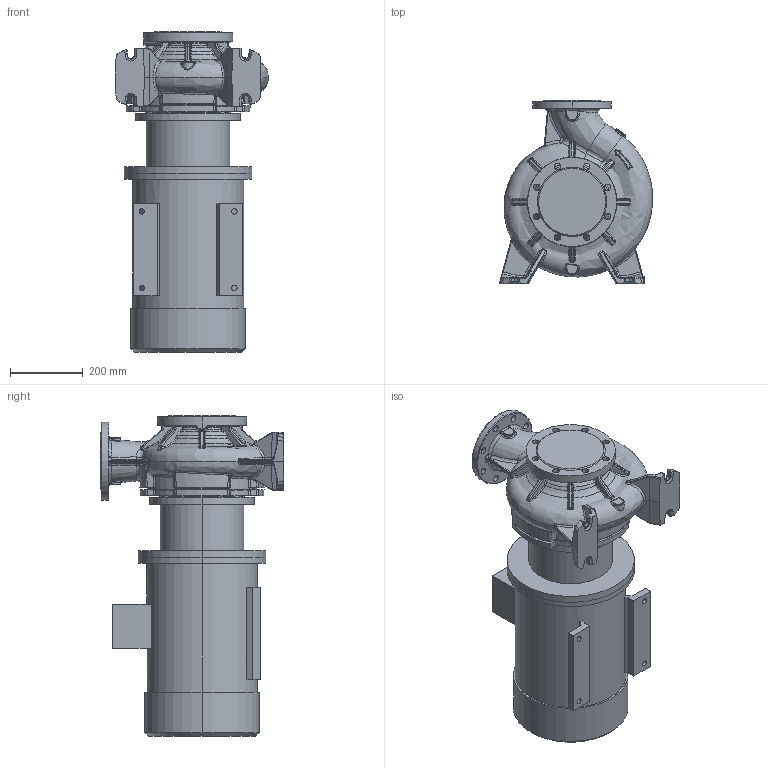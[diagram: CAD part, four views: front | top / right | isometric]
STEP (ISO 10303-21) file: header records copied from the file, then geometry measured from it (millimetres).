
FILE_DESCRIPTION (( 'STEP AP214' ), '1' );
FILE_NAME ('KRM 125-100-250-4-11.STEP', '2026-04-22T07:41:00', ( '' ), ( '' ), 'SwSTEP 2.0', 'SolidWorks 2016', '' );
FILE_SCHEMA (( 'AUTOMOTIVE_DESIGN' ));
Length unit declared in the file: millimetre
Products named in the file (1): KRM 125-100-250-4-11
Bounding box: 421.44 x 505 x 880.8 mm (x, y, z)
Volume: 69045894.1 mm3; surface area: 2157921 mm2
Topology: 4 solids, 4 shells, 1173 faces, 2871 edges, 1696 vertices
Faces by surface type: bspline 493, cylinder 279, plane 180, torus 123, cone 67, sphere 31
Entity records: 98505 total; most frequent: CARTESIAN_POINT 61782, ORIENTED_EDGE 5676, DIRECTION 4125, EDGE_CURVE 2838, AXIS2_PLACEMENT_3D 1774, VERTEX_POINT 1696, EDGE_LOOP 1236, UNCERTAINTY_MEASURE_WITH_UNIT 1179
